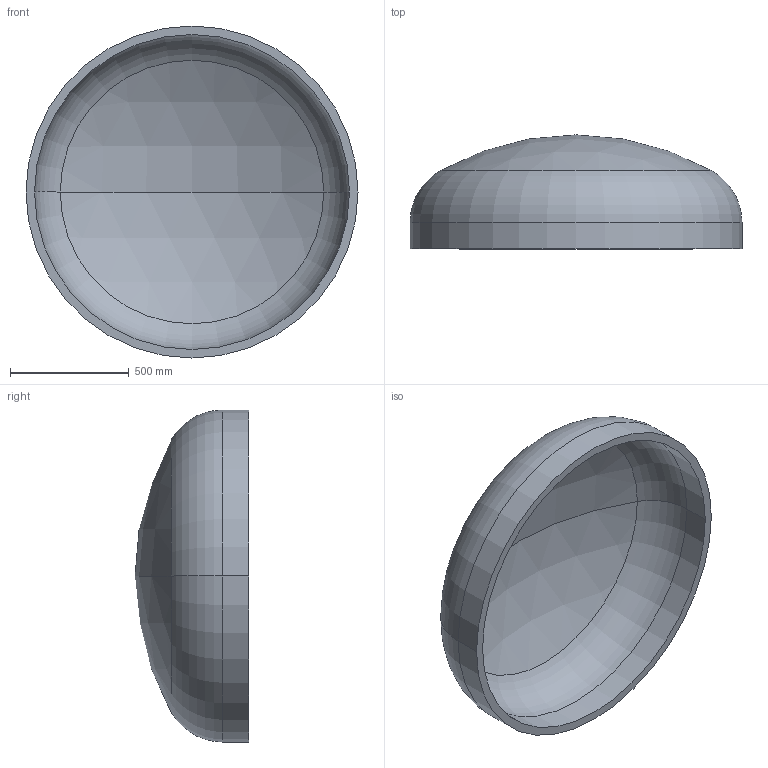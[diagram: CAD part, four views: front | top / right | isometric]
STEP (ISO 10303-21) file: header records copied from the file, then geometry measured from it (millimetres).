
FILE_DESCRIPTION (( 'STEP AP203' ), '1' );
FILE_NAME ('DIN 28013 Korbbogenform_-_Boden DIN 28013 - 1400 x 110 - I - s=36.step', '2016-07-01T10:16:10', ( '' ), ( '' ), 'SwSTEP 2.0', 'SolidWorks 2013', '' );
FILE_SCHEMA (( 'CONFIG_CONTROL_DESIGN' ));
Length unit declared in the file: millimetre
Products named in the file (1): DIN 28013 Korbbogenform_-_Boden DIN 28013 - 1400 x 110 - I - s=36
Bounding box: 1400 x 480.24 x 1400 mm (x, y, z)
Volume: 91136453.5 mm3; surface area: 5220113.9 mm2
Topology: 1 solids, 1 shells, 13 faces, 24 edges, 14 vertices
Faces by surface type: torus 4, cylinder 4, sphere 4, plane 1
Entity records: 407 total; most frequent: DIRECTION 72, CARTESIAN_POINT 52, ORIENTED_EDGE 48, AXIS2_PLACEMENT_3D 34, EDGE_CURVE 24, CIRCLE 20, VERTEX_POINT 14, EDGE_LOOP 14
